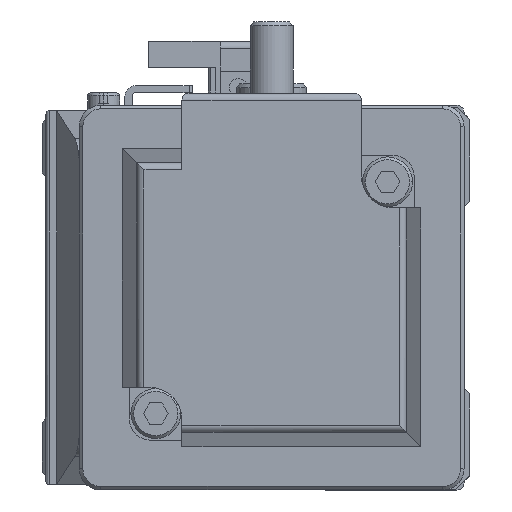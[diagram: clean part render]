
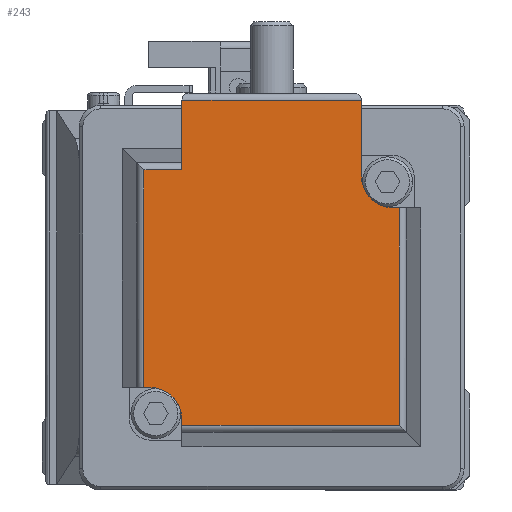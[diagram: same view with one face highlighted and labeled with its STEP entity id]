
A CAD part, left-side view. The second image highlights one B-rep face of the part: STEP entity #243.
In plain terms, the highlighted planar face has unit normal (-1, 0, 0) as drawn and (0, 1, 0) by its records, which use the part's own axes.
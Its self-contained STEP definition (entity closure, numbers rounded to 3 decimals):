
#167 = DIRECTION ( 'NONE',  ( 1., 0., 0. ) ) ;
#243 = ADVANCED_FACE ( 'NONE', ( #4307 ), #18646, .F. ) ;
#265 = CARTESIAN_POINT ( 'NONE',  ( -17.929, 100.6, 17.929 ) ) ;
#568 = VERTEX_POINT ( 'NONE', #27722 ) ;
#968 = VERTEX_POINT ( 'NONE', #14333 ) ;
#975 = LINE ( 'NONE', #18328, #27053 ) ;
#1176 = AXIS2_PLACEMENT_3D ( 'NONE', #8084, #30939, #18405 ) ;
#1406 = VERTEX_POINT ( 'NONE', #19103 ) ;
#2094 = DIRECTION ( 'NONE',  ( 1., 0., 0. ) ) ;
#2278 = EDGE_CURVE ( 'NONE', #1406, #12968, #2970, .T. ) ;
#2301 = CARTESIAN_POINT ( 'NONE',  ( 17.929, 100.6, 12.6 ) ) ;
#2484 = EDGE_CURVE ( 'NONE', #15903, #568, #975, .T. ) ;
#2835 = DIRECTION ( 'NONE',  ( -1., 0., 0. ) ) ;
#2970 = LINE ( 'NONE', #15302, #25492 ) ;
#3182 = VECTOR ( 'NONE', #28188, 1000. ) ;
#3448 = CARTESIAN_POINT ( 'NONE',  ( 17.929, 100.6, 25. ) ) ;
#3726 = CARTESIAN_POINT ( 'NONE',  ( -17.1, 100.6, -17.1 ) ) ;
#3933 = VECTOR ( 'NONE', #30751, 1000. ) ;
#4307 = FACE_OUTER_BOUND ( 'NONE', #9494, .T. ) ;
#4605 = VERTEX_POINT ( 'NONE', #19952 ) ;
#6279 = ORIENTED_EDGE ( 'NONE', *, *, #16324, .T. ) ;
#6467 = VECTOR ( 'NONE', #2835, 1000. ) ;
#6612 = VECTOR ( 'NONE', #15710, 1000. ) ;
#6669 = CARTESIAN_POINT ( 'NONE',  ( 17.929, 100.6, -12.6 ) ) ;
#7083 = EDGE_CURVE ( 'NONE', #568, #18662, #9908, .T. ) ;
#7150 = CARTESIAN_POINT ( 'NONE',  ( 17.929, 100.6, -17.929 ) ) ;
#7367 = EDGE_CURVE ( 'NONE', #21725, #1406, #19785, .T. ) ;
#8084 = CARTESIAN_POINT ( 'NONE',  ( 17.1, 100.6, 17.1 ) ) ;
#8246 = EDGE_CURVE ( 'NONE', #8812, #12968, #14540, .T. ) ;
#8412 = LINE ( 'NONE', #10875, #18743 ) ;
#8599 = DIRECTION ( 'NONE',  ( 0., -1., 0. ) ) ;
#8812 = VERTEX_POINT ( 'NONE', #17534 ) ;
#9494 = EDGE_LOOP ( 'NONE', ( #18367, #18222, #13561, #28955, #9573, #6279, #19525, #15251, #32491, #28523, #32055, #30312 ) ) ;
#9573 = ORIENTED_EDGE ( 'NONE', *, *, #13729, .F. ) ;
#9908 = LINE ( 'NONE', #20598, #3182 ) ;
#10875 = CARTESIAN_POINT ( 'NONE',  ( -12.6, 100.6, -21. ) ) ;
#11141 = CARTESIAN_POINT ( 'NONE',  ( 12.6, 100.6, 17.929 ) ) ;
#11432 = DIRECTION ( 'NONE',  ( 0., 0., -1. ) ) ;
#12043 = EDGE_CURVE ( 'NONE', #31534, #15903, #25999, .T. ) ;
#12328 = AXIS2_PLACEMENT_3D ( 'NONE', #3726, #8599, #23808 ) ;
#12534 = DIRECTION ( 'NONE',  ( 0., 0., 1. ) ) ;
#12968 = VERTEX_POINT ( 'NONE', #18769 ) ;
#13407 = DIRECTION ( 'NONE',  ( 0., 0., 1. ) ) ;
#13561 = ORIENTED_EDGE ( 'NONE', *, *, #2484, .F. ) ;
#13729 = EDGE_CURVE ( 'NONE', #4605, #31534, #31814, .T. ) ;
#14333 = CARTESIAN_POINT ( 'NONE',  ( 12.6, 100.6, 17.1 ) ) ;
#14367 = LINE ( 'NONE', #17457, #17144 ) ;
#14540 = CIRCLE ( 'NONE', #12328, 4.5 ) ;
#15251 = ORIENTED_EDGE ( 'NONE', *, *, #2278, .F. ) ;
#15302 = CARTESIAN_POINT ( 'NONE',  ( 17.929, 100.6, -12.6 ) ) ;
#15543 = EDGE_CURVE ( 'NONE', #18662, #17895, #25033, .T. ) ;
#15710 = DIRECTION ( 'NONE',  ( 0., 0., 1. ) ) ;
#15738 = CARTESIAN_POINT ( 'NONE',  ( 17.929, 100.6, 17.929 ) ) ;
#15903 = VERTEX_POINT ( 'NONE', #6669 ) ;
#16324 = EDGE_CURVE ( 'NONE', #4605, #8812, #8412, .T. ) ;
#17144 = VECTOR ( 'NONE', #12534, 1000. ) ;
#17457 = CARTESIAN_POINT ( 'NONE',  ( 12.6, 100.6, 25. ) ) ;
#17534 = CARTESIAN_POINT ( 'NONE',  ( -12.6, 100.6, -17.1 ) ) ;
#17828 = EDGE_CURVE ( 'NONE', #968, #25232, #14367, .T. ) ;
#17895 = VERTEX_POINT ( 'NONE', #30558 ) ;
#18222 = ORIENTED_EDGE ( 'NONE', *, *, #7083, .F. ) ;
#18328 = CARTESIAN_POINT ( 'NONE',  ( 17.929, 100.6, -12.6 ) ) ;
#18367 = ORIENTED_EDGE ( 'NONE', *, *, #15543, .F. ) ;
#18405 = DIRECTION ( 'NONE',  ( 0., 0., -1. ) ) ;
#18445 = DIRECTION ( 'NONE',  ( 1., 0., 0. ) ) ;
#18646 = PLANE ( 'NONE',  #26124 ) ;
#18662 = VERTEX_POINT ( 'NONE', #31498 ) ;
#18743 = VECTOR ( 'NONE', #13407, 1000. ) ;
#18769 = CARTESIAN_POINT ( 'NONE',  ( -17.1, 100.6, -12.6 ) ) ;
#19103 = CARTESIAN_POINT ( 'NONE',  ( -17.929, 100.6, -12.6 ) ) ;
#19525 = ORIENTED_EDGE ( 'NONE', *, *, #8246, .T. ) ;
#19785 = LINE ( 'NONE', #26511, #24060 ) ;
#19907 = CARTESIAN_POINT ( 'NONE',  ( 17.929, 100.6, -17.929 ) ) ;
#19952 = CARTESIAN_POINT ( 'NONE',  ( -12.6, 100.6, -17.929 ) ) ;
#20023 = EDGE_CURVE ( 'NONE', #25232, #21725, #31230, .T. ) ;
#20598 = CARTESIAN_POINT ( 'NONE',  ( 27.7, 100.6, 25. ) ) ;
#21448 = CIRCLE ( 'NONE', #1176, 4.5 ) ;
#21725 = VERTEX_POINT ( 'NONE', #265 ) ;
#23808 = DIRECTION ( 'NONE',  ( 0., 0., -1. ) ) ;
#24060 = VECTOR ( 'NONE', #29053, 1000. ) ;
#25033 = LINE ( 'NONE', #2301, #6467 ) ;
#25232 = VERTEX_POINT ( 'NONE', #11141 ) ;
#25492 = VECTOR ( 'NONE', #167, 1000. ) ;
#25514 = CARTESIAN_POINT ( 'NONE',  ( 17.929, 100.6, 25. ) ) ;
#25999 = LINE ( 'NONE', #25514, #6612 ) ;
#26124 = AXIS2_PLACEMENT_3D ( 'NONE', #3448, #26425, #11432 ) ;
#26425 = DIRECTION ( 'NONE',  ( 0., -1., 0. ) ) ;
#26511 = CARTESIAN_POINT ( 'NONE',  ( -17.929, 100.6, 25. ) ) ;
#27053 = VECTOR ( 'NONE', #18445, 1000. ) ;
#27504 = EDGE_CURVE ( 'NONE', #17895, #968, #21448, .T. ) ;
#27722 = CARTESIAN_POINT ( 'NONE',  ( 27.7, 100.6, -12.6 ) ) ;
#28188 = DIRECTION ( 'NONE',  ( 0., 0., 1. ) ) ;
#28523 = ORIENTED_EDGE ( 'NONE', *, *, #20023, .F. ) ;
#28955 = ORIENTED_EDGE ( 'NONE', *, *, #12043, .F. ) ;
#29053 = DIRECTION ( 'NONE',  ( 0., 0., -1. ) ) ;
#30312 = ORIENTED_EDGE ( 'NONE', *, *, #27504, .F. ) ;
#30558 = CARTESIAN_POINT ( 'NONE',  ( 17.1, 100.6, 12.6 ) ) ;
#30751 = DIRECTION ( 'NONE',  ( -1., 0., 0. ) ) ;
#30939 = DIRECTION ( 'NONE',  ( 0., 1., 0. ) ) ;
#31230 = LINE ( 'NONE', #15738, #3933 ) ;
#31443 = VECTOR ( 'NONE', #2094, 1000. ) ;
#31498 = CARTESIAN_POINT ( 'NONE',  ( 27.7, 100.6, 12.6 ) ) ;
#31534 = VERTEX_POINT ( 'NONE', #7150 ) ;
#31814 = LINE ( 'NONE', #19907, #31443 ) ;
#32055 = ORIENTED_EDGE ( 'NONE', *, *, #17828, .F. ) ;
#32491 = ORIENTED_EDGE ( 'NONE', *, *, #7367, .F. ) ;
